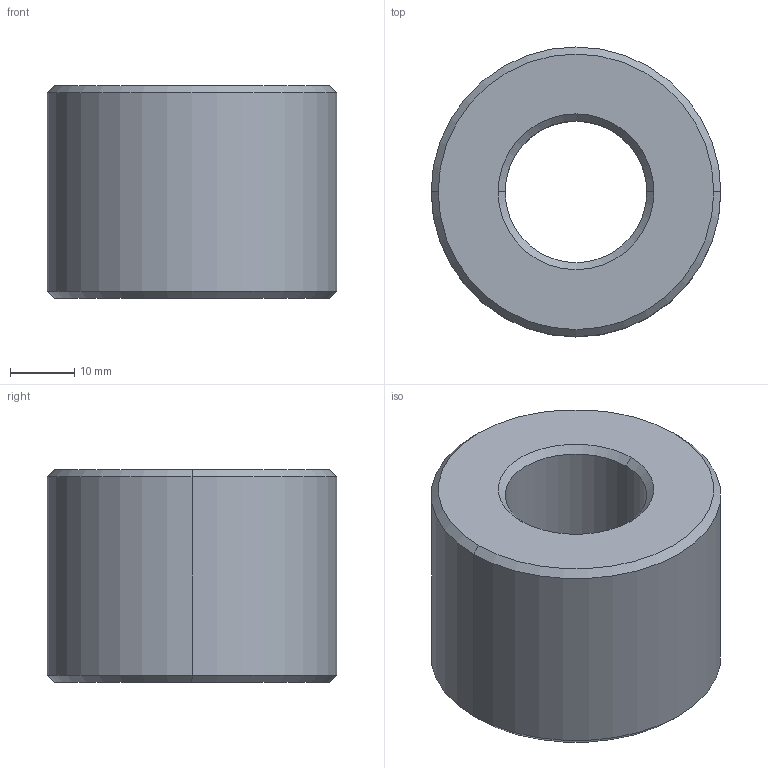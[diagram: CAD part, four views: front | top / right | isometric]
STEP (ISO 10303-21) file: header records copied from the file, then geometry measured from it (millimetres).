
FILE_DESCRIPTION (( 'STEP AP203' ), '1' );
FILE_NAME ('L1339.R22-10.step', '2024-10-24T14:10:04', ( '' ), ( '' ), 'SwSTEP 2.0', 'SolidWorks 2019', '' );
FILE_SCHEMA (( 'CONFIG_CONTROL_DESIGN' ));
Length unit declared in the file: millimetre
Products named in the file (1): L1339.R22-10
Bounding box: 45 x 45 x 33 mm (x, y, z)
Volume: 39685.2 mm3; surface area: 9095.4 mm2
Topology: 1 solids, 1 shells, 14 faces, 28 edges, 16 vertices
Faces by surface type: cone 8, cylinder 4, plane 2
Entity records: 445 total; most frequent: DIRECTION 74, CARTESIAN_POINT 59, ORIENTED_EDGE 56, AXIS2_PLACEMENT_3D 31, EDGE_CURVE 28, VERTEX_POINT 16, CIRCLE 16, EDGE_LOOP 16
